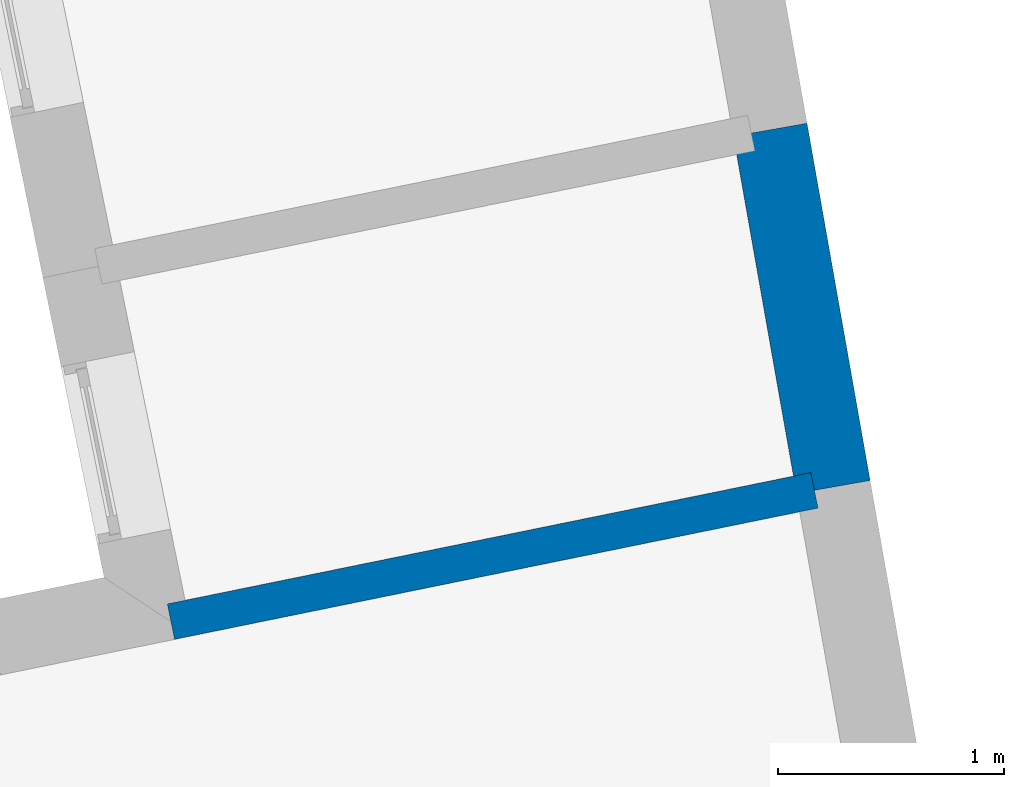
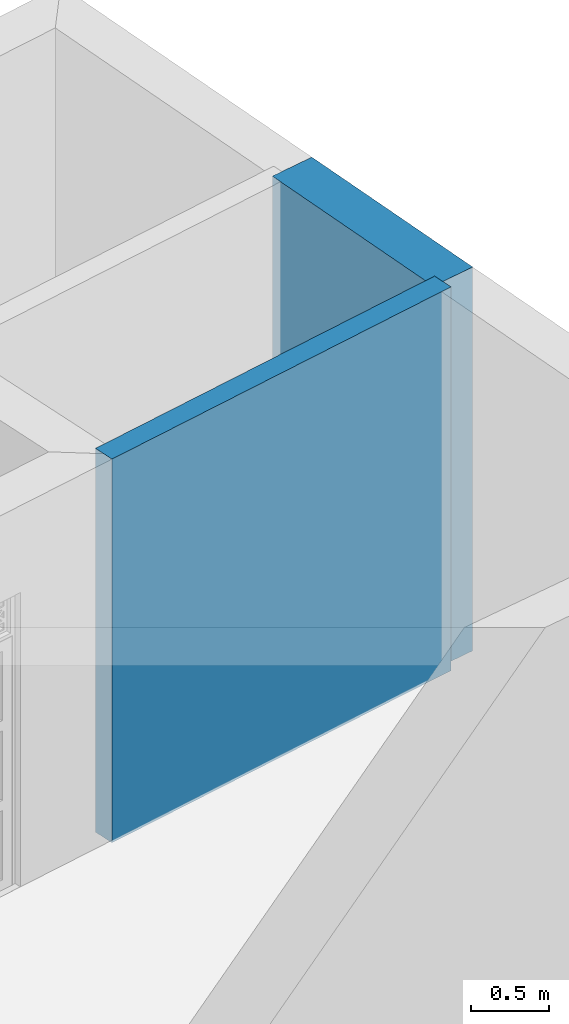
# One storey, part 9 of 11: 2 walls.
"""IFC4 building model written with IfcOpenShell, lengths in metres."""

from ifc_helpers import new_model, si_unit, frame, origin_with_axes, place, context, subcontext, project, spatial, polyline, outline, extrude, material, layer, layer_set, layer_usage, type_object, element, save


model = new_model("IFC4")

# Units and contexts
model_context = context("Model", 3, world=origin_with_axes())
body_context = subcontext(model_context, "Body", "Model", "MODEL_VIEW")
ifc_project = project(units=[si_unit("PLANEANGLEUNIT", "RADIAN"), si_unit("MASSUNIT", "GRAM", prefix="KILO"), si_unit("FORCEUNIT", "NEWTON", prefix="KILO"), si_unit("LENGTHUNIT", "METRE"), si_unit("AREAUNIT", "SQUARE_METRE"), si_unit("VOLUMEUNIT", "CUBIC_METRE")], contexts=[model_context, model_context])

# Site, building, storey
site_placement = place(None, origin_with_axes())
site = spatial("IfcSite", under=ifc_project, at=site_placement, Name="Site plot-7", CompositionType="ELEMENT")
building_placement = place(None, origin_with_axes())
building = spatial("IfcBuilding", under=site, at=building_placement, Name="Building plot-7", CompositionType="ELEMENT")
storey_placement = place(None, origin_with_axes())
storey = spatial("IfcBuildingStorey", under=building, at=storey_placement, Name="plot-7 0", CompositionType="ELEMENT", Elevation=0.0)

# Walls
ifc_material_1 = material(Name="Masonry")
ifc_layer_1 = layer(ifc_material_1, 0.33, ventilated=False)
ifc_layer_set_1 = layer_set([ifc_layer_1], Name="party_0.08_0.25")
ifc_layer_usage_1 = layer_usage(ifc_layer_set_1, "AXIS2", "POSITIVE", -0.25)
wall_type_1 = type_object("IfcWallType", Name="party_0.08_0.25", PredefinedType="SOLIDWALL", material=ifc_layer_set_1)
wall_1_placement = place(storey_placement, frame((-0.652337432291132, 9.42682588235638, 0.0), z_axis=(0.0, 0.0, 1.0), x_axis=(-0.174013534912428, 0.984743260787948, 0.0)))
element("IfcWall", 1, at=wall_1_placement, inside=storey, type_object=wall_type_1, material=ifc_layer_usage_1, Name="party", context=body_context, shape_type="SweptSolid", body=[
    extrude(outline(polyline([(5.91096344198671e-16, 0.0799999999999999), (-5.39803427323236e-16, -0.25), (1.60241241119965, -0.25), (1.60241241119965, 0.0800000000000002), (5.91096344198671e-16, 0.0799999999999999)])), origin_with_axes(), (0.0, 0.0, 1.0), 3.0),
])
ifc_material_2 = material(Name="Masonry")
ifc_layer_2 = layer(ifc_material_2, 0.16, ventilated=False)
ifc_layer_set_2 = layer_set([ifc_layer_2], Name="interior_0.08_0.08")
ifc_layer_usage_2 = layer_usage(ifc_layer_set_2, "AXIS2", "POSITIVE", -0.08)
wall_type_2 = type_object("IfcWallType", Name="interior_0.08_0.08", PredefinedType="SOLIDWALL", material=ifc_layer_set_2)
wall_2_placement = place(storey_placement, frame((-3.49451231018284, 8.84684003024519, 0.0), z_axis=(0.0, 0.0, 1.0), x_axis=(0.979807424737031, 0.199943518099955, 0.0)))
element("IfcWall", 2, at=wall_2_placement, inside=storey, type_object=wall_type_2, material=ifc_layer_usage_2, Name="interior", context=body_context, shape_type="SweptSolid", body=[
    extrude(outline(polyline([(-4.83921179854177e-17, 0.0799999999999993), (5.81892923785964e-17, -0.0799999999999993), (2.90074845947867, -0.0799999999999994), (2.90074845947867, 0.0799999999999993), (-4.83921179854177e-17, 0.0799999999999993)])), origin_with_axes(), (0.0, 0.0, 1.0), 3.0),
])

save(model, "model.ifc")
